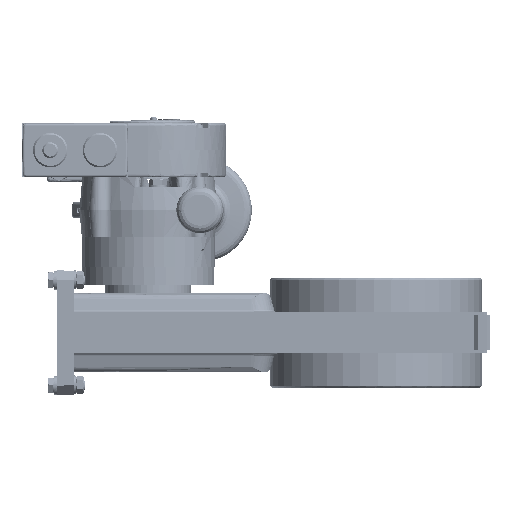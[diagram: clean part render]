
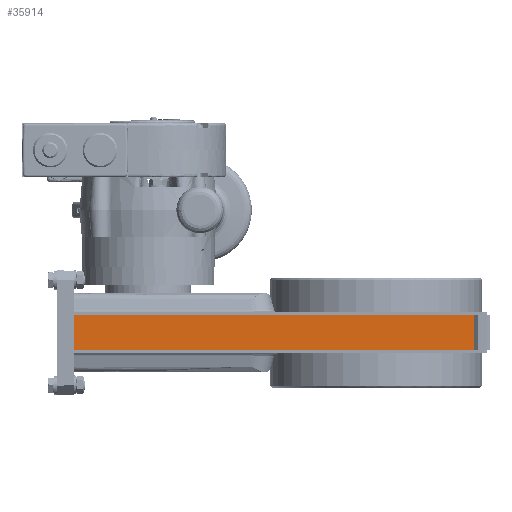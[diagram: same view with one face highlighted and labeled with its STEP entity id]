
A CAD part, left-side view. The second image highlights one B-rep face of the part: STEP entity #35914.
In plain terms, the highlighted free-form (B-spline) face has degree [1, 1] with [2, 2] control points.
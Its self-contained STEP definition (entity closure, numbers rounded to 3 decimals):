
#35724=CARTESIAN_POINT('V9',(0.,22.45,0.0)
   );
#35725=VERTEX_POINT('V9',#35724);
#35731=CARTESIAN_POINT('V7',(0.0,0.0,0.0));
#35732=VERTEX_POINT('V7',#35731);
#35733=CARTESIAN_POINT('E4',(0.0,0.0,0.0));
#35734=CARTESIAN_POINT('E4',(0.,22.45,0.0)
   );
#35735=QUASI_UNIFORM_CURVE('E4',1,(#35733,#35734),.POLYLINE_FORM.,
   .F.,.U.);
#35736=EDGE_CURVE('E4',#35732,#35725,#35735,.T.);
#35789=CARTESIAN_POINT('V8',(0.0,0.0,257.0));
#35790=VERTEX_POINT('V8',#35789);
#35796=CARTESIAN_POINT('V10',(0.,22.45,257.0)
   );
#35797=VERTEX_POINT('V10',#35796);
#35798=CARTESIAN_POINT('E17',(0.,22.45,257.0)
   );
#35799=CARTESIAN_POINT('E17',(0.0,0.0,257.0));
#35800=QUASI_UNIFORM_CURVE('E17',1,(#35798,#35799),.POLYLINE_FORM.,
   .F.,.U.);
#35801=EDGE_CURVE('E17',#35797,#35790,#35800,.T.);
#35889=CARTESIAN_POINT('E24',(0.0,0.0,257.0));
#35890=CARTESIAN_POINT('E24',(0.0,0.0,0.0));
#35891=QUASI_UNIFORM_CURVE('E24',1,(#35889,#35890),.POLYLINE_FORM.,
   .F.,.U.);
#35892=EDGE_CURVE('E24',#35790,#35732,#35891,.T.);
#35899=CARTESIAN_POINT('F6',(0.,22.45,0.0)
   );
#35900=CARTESIAN_POINT('F6',(0.0,0.0,0.0));
#35901=CARTESIAN_POINT('F6',(0.,22.45,257.0)
   );
#35902=CARTESIAN_POINT('F6',(0.0,0.0,257.0));
#35903=B_SPLINE_SURFACE_WITH_KNOTS('F6',1,1,((#35899,#35901),(
   #35900,#35902)),.PLANE_SURF.,.F.,.F.,.U.,(2,2),(2,2),(0.0,1.0),
   (0.0,11.448),.UNSPECIFIED.);
#35904=ORIENTED_EDGE('E4',*,*,#35736,.T.);
#35905=CARTESIAN_POINT('E25',(0.,22.45,257.0)
   );
#35906=CARTESIAN_POINT('E25',(0.,22.45,0.0)
   );
#35907=QUASI_UNIFORM_CURVE('E25',1,(#35905,#35906),.POLYLINE_FORM.,
   .F.,.U.);
#35908=EDGE_CURVE('E25',#35797,#35725,#35907,.T.);
#35909=ORIENTED_EDGE('E25',*,*,#35908,.F.);
#35910=ORIENTED_EDGE('E17',*,*,#35801,.T.);
#35911=ORIENTED_EDGE('E24',*,*,#35892,.T.);
#35912=EDGE_LOOP('F6',(#35904,#35909,#35910,#35911));
#35913=FACE_OUTER_BOUND('F6',#35912,.F.);
#35914=ADVANCED_FACE('F6',(#35913),#35903,.T.);
